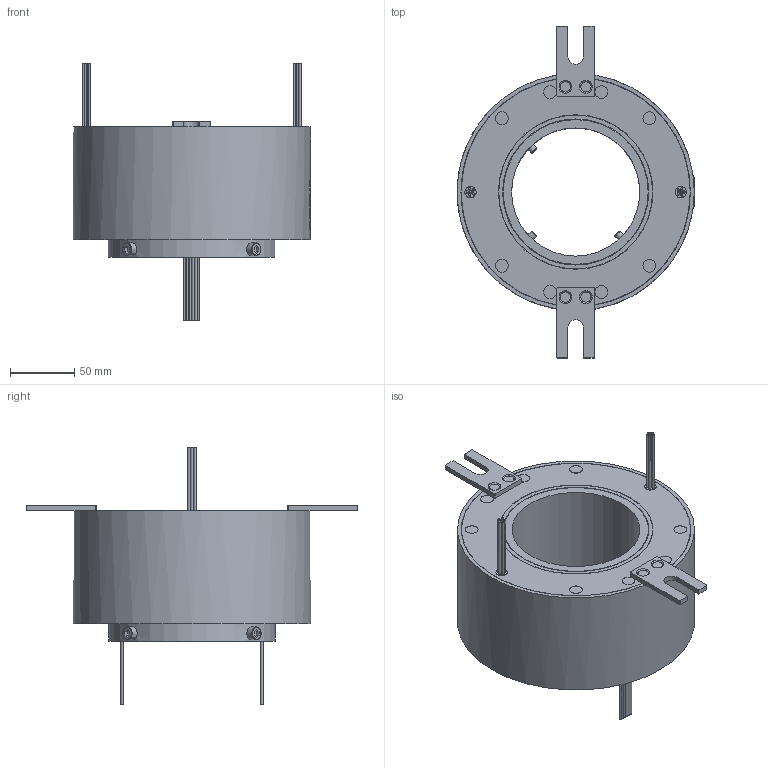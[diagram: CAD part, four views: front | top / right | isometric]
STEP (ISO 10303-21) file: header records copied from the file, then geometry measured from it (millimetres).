
FILE_DESCRIPTION(/* description */ (''),/* implementation_level */ '2;1');
FILE_NAME(/* name */ 'YD100185-1210-3D模型.stp',/* time_stamp */ '2025-09-04T17:45:28+08:00',/* author */ (''),/* organization */ (''),/* preprocessor_version */ 'ST-DEVELOPER v16.7',/* originating_system */ 'SIEMENS PLM Software NX 12.0',/* authorisation */ '');
FILE_SCHEMA (('AUTOMOTIVE_DESIGN { 1 0 10303 214 3 1 1 1 }'));
Length unit declared in the file: millimetre
Products named in the file (1): Admi8ABC6E1721ez
Bounding box: 185.5 x 259 x 201.1 mm (x, y, z)
Volume: 1762740.1 mm3; surface area: 144053.4 mm2
Topology: 1 solids, 5 shells, 965 faces, 2542 edges, 1689 vertices
Faces by surface type: extrusion 479, plane 345, cylinder 92, bspline 33, cone 12, torus 4
Full cylindrical faces by diameter (mm): 1.8 x24, 4 x4, 4.5 x4, 5 x1, 6 x7, 8 x4, 9 x2, 10 x12, 100 x1, 114 x1, 120 x1, 120.5 x1, 130 x1, 178.8 x2, 179 x2, 185 x1
Entity records: 37803 total; most frequent: CARTESIAN_POINT 17759, ORIENTED_EDGE 4864, EDGE_CURVE 2432, DIRECTION 2317, B_SPLINE_CURVE_WITH_KNOTS 2291, VERTEX_POINT 1663, EDGE_LOOP 1165, ADVANCED_FACE 965
